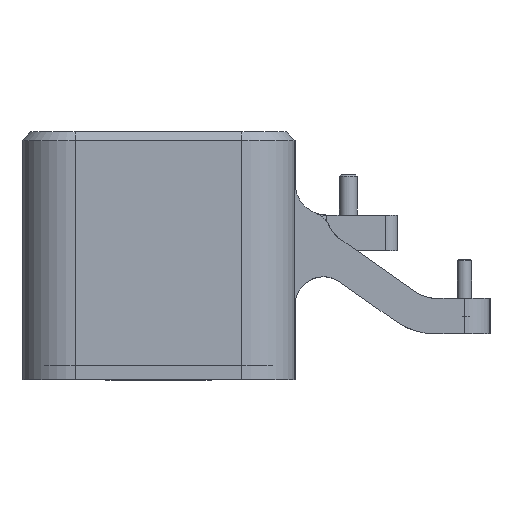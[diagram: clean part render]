
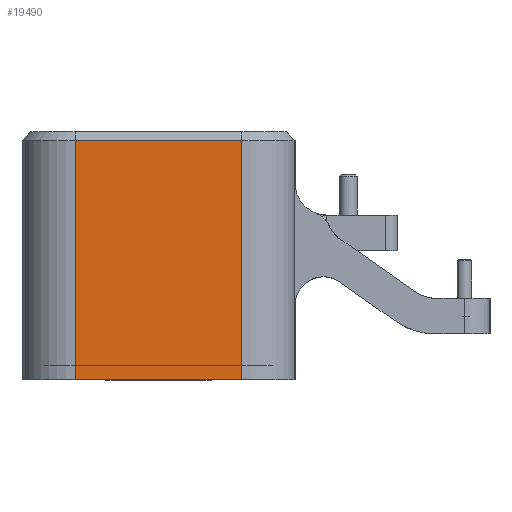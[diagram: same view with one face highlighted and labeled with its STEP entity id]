
A CAD part, left-side view. The second image highlights one B-rep face of the part: STEP entity #19490.
In plain terms, the highlighted planar face has unit normal (-1, 0, 0).
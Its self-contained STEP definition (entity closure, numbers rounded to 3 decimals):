
#3366=FACE_OUTER_BOUND('',#4487,.T.);
#4487=EDGE_LOOP('',(#15489,#15490,#15491,#15492));
#5465=LINE('',#36549,#6550);
#5650=LINE('',#37040,#6735);
#5652=LINE('',#37046,#6737);
#5653=LINE('',#37048,#6738);
#6550=VECTOR('',#24272,10.);
#6735=VECTOR('',#24807,10.);
#6737=VECTOR('',#24817,10.);
#6738=VECTOR('',#24820,10.);
#8318=VERTEX_POINT('',#36538);
#8322=VERTEX_POINT('',#36547);
#8451=VERTEX_POINT('',#37032);
#8453=VERTEX_POINT('',#37038);
#10709=EDGE_CURVE('',#8318,#8322,#5465,.T.);
#10954=EDGE_CURVE('',#8453,#8451,#5650,.T.);
#10958=EDGE_CURVE('',#8451,#8322,#5652,.T.);
#10959=EDGE_CURVE('',#8318,#8453,#5653,.T.);
#15489=ORIENTED_EDGE('',*,*,#10954,.F.);
#15490=ORIENTED_EDGE('',*,*,#10959,.F.);
#15491=ORIENTED_EDGE('',*,*,#10709,.T.);
#15492=ORIENTED_EDGE('',*,*,#10958,.F.);
#17657=PLANE('',#21081);
#19490=ADVANCED_FACE('',(#3366),#17657,.T.);
#21081=AXIS2_PLACEMENT_3D('',#37047,#24818,#24819);
#24272=DIRECTION('',(0.,-1.,0.));
#24807=DIRECTION('',(0.,-1.,0.));
#24817=DIRECTION('',(0.,0.,-1.));
#24818=DIRECTION('center_axis',(-1.,0.,0.));
#24819=DIRECTION('ref_axis',(0.,0.,1.));
#24820=DIRECTION('',(0.,0.,1.));
#36538=CARTESIAN_POINT('',(-427.25,23.5,-33.));
#36547=CARTESIAN_POINT('',(-427.25,-23.5,-33.));
#36549=CARTESIAN_POINT('',(-427.25,-15.653,-33.));
#37032=CARTESIAN_POINT('',(-427.25,-23.5,34.5));
#37038=CARTESIAN_POINT('',(-427.25,23.5,34.5));
#37040=CARTESIAN_POINT('',(-427.25,-29.75,34.5));
#37046=CARTESIAN_POINT('',(-427.25,-23.5,6.75));
#37047=CARTESIAN_POINT('Origin',(-427.25,-52.5,0.));
#37048=CARTESIAN_POINT('',(-427.25,23.5,0.));
